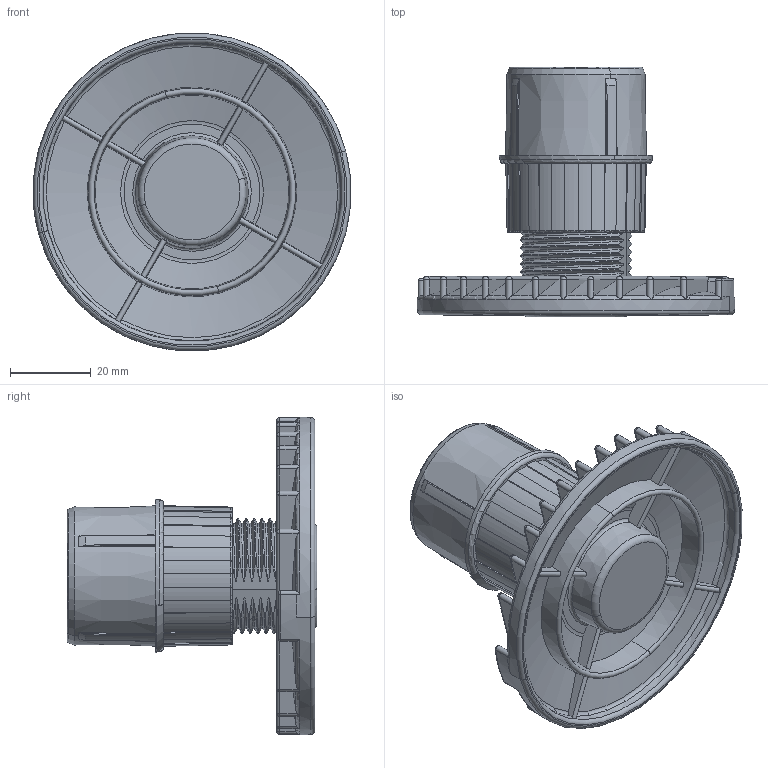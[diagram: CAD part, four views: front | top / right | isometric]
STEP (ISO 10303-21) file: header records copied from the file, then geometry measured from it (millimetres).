
FILE_DESCRIPTION((''),'2;1');
FILE_NAME('69_4065_ASM','2014-10-29T',('hha'),(''),'PRO/ENGINEER BY PARAMETRIC TECHNOLOGY CORPORATION, 2012360','PRO/ENGINEER BY PARAMETRIC TECHNOLOGY CORPORATION, 2012360','');
FILE_SCHEMA(('CONFIG_CONTROL_DESIGN'));
Length unit declared in the file: millimetre
Products named in the file (3): 69_0751; 69_0099; 69_4065_ASM
Assembly tree (2 placements, depth 2):
  69_4065_ASM
    69_0751
    69_0099
Bounding box: 78.79 x 61.89 x 78.78 mm (x, y, z)
Volume: 35340.1 mm3; surface area: 35462.9 mm2
Topology: 2 solids, 2 shells, 721 faces, 1932 edges, 1222 vertices
Faces by surface type: plane 177, cylinder 171, bspline 145, cone 113, torus 93, sphere 22
Entity records: 61760 total; most frequent: CARTESIAN_POINT 45904, ORIENTED_EDGE 3864, DIRECTION 2449, EDGE_CURVE 1932, VERTEX_POINT 1222, B_SPLINE_CURVE_WITH_KNOTS 1020, AXIS2_PLACEMENT_3D 956, EDGE_LOOP 730
